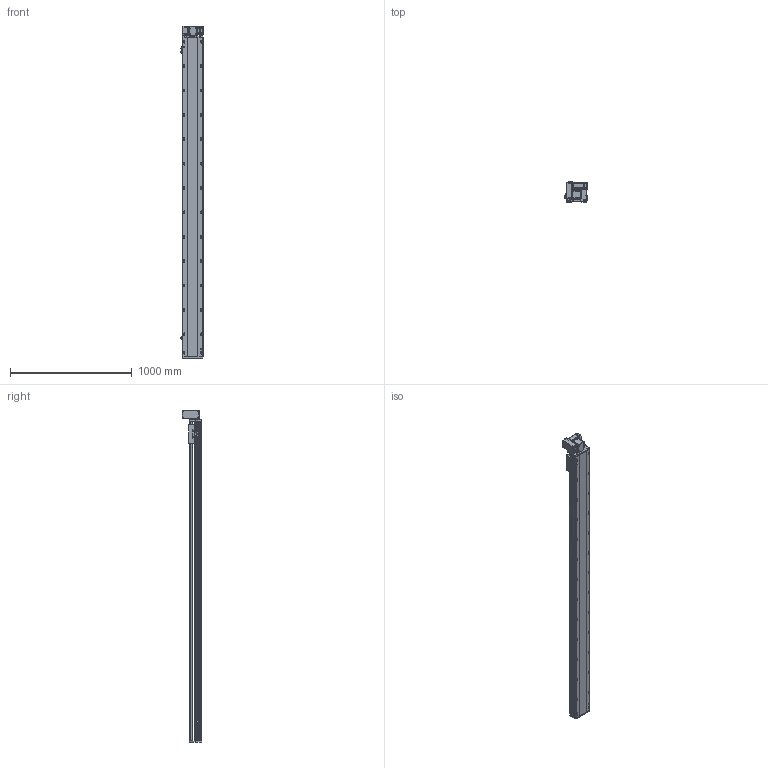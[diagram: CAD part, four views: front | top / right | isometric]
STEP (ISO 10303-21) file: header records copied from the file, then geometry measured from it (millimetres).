
FILE_DESCRIPTION (( 'STEP AP214' ), '1' );
FILE_NAME ('RTB17S-XX-2350-LW-M40-C4.STEP', '2025-12-11T07:16:29', ( '' ), ( '' ), 'SwSTEP 2.0', 'SolidWorks 2018', '' );
FILE_SCHEMA (( 'AUTOMOTIVE_DESIGN' ));
Length unit declared in the file: millimetre
Products named in the file (14): RTB17S-XX-2350-LW-M40-C4; RTB17S-L-004佪裝蹟譫蟀諉釱^RTB17S-XX-XX-LW-M40-C4; OMRON EE-SX672 传感器^RTB17S-XX-XX-LW-M40-C4; RTB17-R-011菁釱^RTB17S-XX-XX-LW-M40-C4; RTB17S-LW-々湍釱蚾饜-400W^RTB17S-XX-XX-LW-M40-C4; RTB14-L-018P^RTB17S-LW-々湍釱蚾饜-400W_RTB17S-XX-XX-LW-M40-C4; RTB14-L-005P--轴承塑胶压盖^RTB17S-LW-皮带座装配-400W_RTB17S-XX-XX-LW-M40-C4; RTB14-L-008-M20--萇儂啣^RTB17S-LW-々湍釱蚾饜-400W_RTB17S-XX-XX-LW-M40-C4; RTH13-BL-012覜茼え俋离^RTB17S-XX-XX-LW-M40-C4; RTB17S-L-007奻裔^RTB17S-XX-XX-LW-M40-C4; RTB14-L-017P^RTB17S-LW-々湍釱蚾饜-400W_RTB17S-XX-XX-LW-M40-C4; RTB17S-L-014-T20--々湍釱^RTB17S-LW-々湍釱蚾饜-400W_RTB17S-XX-XX-LW-M40-C4; RTB17S-L-001耜醱啣^RTB17S-XX-XX-LW-M40-C4; 400W侜督萇儂^RTB17S-XX-XX-LW-M40-C4
Assembly tree (16 placements, depth 3):
  RTB17S-XX-2350-LW-M40-C4
    RTB17-R-011菁釱^RTB17S-XX-XX-LW-M40-C4
    RTB17S-L-007奻裔^RTB17S-XX-XX-LW-M40-C4
    OMRON EE-SX672 传感器^RTB17S-XX-XX-LW-M40-C4  x3
    RTB17S-L-001耜醱啣^RTB17S-XX-XX-LW-M40-C4
    400W侜督萇儂^RTB17S-XX-XX-LW-M40-C4
    RTB17S-L-004佪裝蹟譫蟀諉釱^RTB17S-XX-XX-LW-M40-C4
    RTH13-BL-012覜茼え俋离^RTB17S-XX-XX-LW-M40-C4
    RTB17S-LW-々湍釱蚾饜-400W^RTB17S-XX-XX-LW-M40-C4
      RTB17S-L-014-T20--々湍釱^RTB17S-LW-々湍釱蚾饜-400W_RTB17S-XX-XX-LW-M40-C4
      RTB14-L-005P--轴承塑胶压盖^RTB17S-LW-皮带座装配-400W_RTB17S-XX-XX-LW-M40-C4
      RTB14-L-008-M20--萇儂啣^RTB17S-LW-々湍釱蚾饜-400W_RTB17S-XX-XX-LW-M40-C4
      RTB14-L-017P^RTB17S-LW-々湍釱蚾饜-400W_RTB17S-XX-XX-LW-M40-C4  x2
      RTB14-L-018P^RTB17S-LW-々湍釱蚾饜-400W_RTB17S-XX-XX-LW-M40-C4
Bounding box: 186 x 160.5 x 2722.5 mm (x, y, z)
Volume: 23383487.2 mm3; surface area: 2698608.2 mm2
Topology: 15 solids, 15 shells, 2317 faces, 6465 edges, 4221 vertices
Faces by surface type: plane 1082, cylinder 787, bspline 301, cone 139, torus 8
Entity records: 68009 total; most frequent: CARTESIAN_POINT 19270, ORIENTED_EDGE 9774, DIRECTION 9026, EDGE_CURVE 4887, VERTEX_POINT 3209, AXIS2_PLACEMENT_3D 3139, LINE 2748, VECTOR 2748
